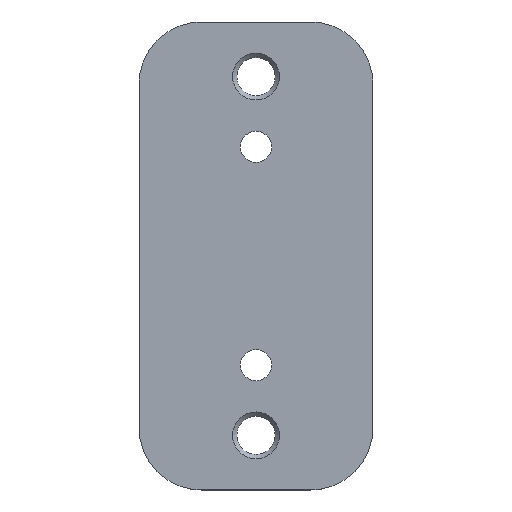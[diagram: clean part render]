
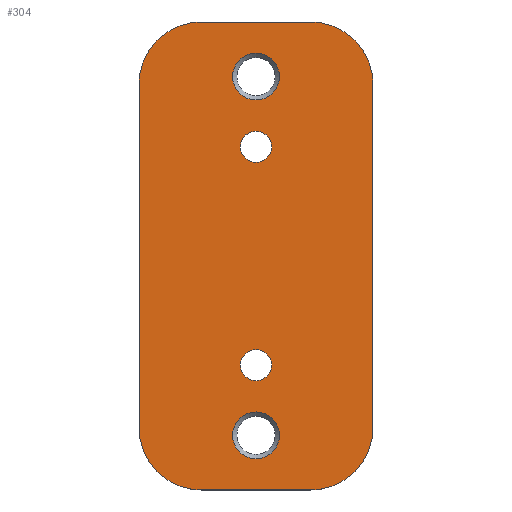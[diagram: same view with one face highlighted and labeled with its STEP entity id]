
A CAD part, top view. The second image highlights one B-rep face of the part: STEP entity #304.
In plain terms, the highlighted planar face has unit normal (0, 0, 1).
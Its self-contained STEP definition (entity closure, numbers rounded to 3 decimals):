
#25=CIRCLE('',#328,8.);
#27=CIRCLE('',#332,8.);
#29=CIRCLE('',#336,8.);
#30=CIRCLE('',#339,2.);
#32=CIRCLE('',#342,2.);
#35=CIRCLE('',#346,8.);
#36=CIRCLE('',#348,3.);
#37=CIRCLE('',#349,3.);
#88=ORIENTED_EDGE('',*,*,#152,.T.);
#89=ORIENTED_EDGE('',*,*,#153,.T.);
#90=ORIENTED_EDGE('',*,*,#148,.F.);
#91=ORIENTED_EDGE('',*,*,#146,.F.);
#92=ORIENTED_EDGE('',*,*,#126,.T.);
#93=ORIENTED_EDGE('',*,*,#130,.T.);
#94=ORIENTED_EDGE('',*,*,#133,.T.);
#95=ORIENTED_EDGE('',*,*,#136,.T.);
#96=ORIENTED_EDGE('',*,*,#139,.T.);
#97=ORIENTED_EDGE('',*,*,#142,.T.);
#98=ORIENTED_EDGE('',*,*,#145,.T.);
#99=ORIENTED_EDGE('',*,*,#151,.T.);
#126=EDGE_CURVE('',#163,#162,#190,.T.);
#130=EDGE_CURVE('',#162,#165,#25,.T.);
#133=EDGE_CURVE('',#165,#167,#195,.T.);
#136=EDGE_CURVE('',#167,#169,#27,.T.);
#139=EDGE_CURVE('',#169,#171,#199,.T.);
#142=EDGE_CURVE('',#171,#173,#29,.T.);
#145=EDGE_CURVE('',#173,#175,#203,.T.);
#146=EDGE_CURVE('',#176,#176,#30,.T.);
#148=EDGE_CURVE('',#178,#178,#32,.T.);
#151=EDGE_CURVE('',#175,#163,#35,.T.);
#152=EDGE_CURVE('',#180,#180,#36,.T.);
#153=EDGE_CURVE('',#181,#181,#37,.T.);
#162=VERTEX_POINT('',#463);
#163=VERTEX_POINT('',#465);
#165=VERTEX_POINT('',#471);
#167=VERTEX_POINT('',#477);
#169=VERTEX_POINT('',#483);
#171=VERTEX_POINT('',#489);
#173=VERTEX_POINT('',#495);
#175=VERTEX_POINT('',#501);
#176=VERTEX_POINT('',#505);
#178=VERTEX_POINT('',#510);
#180=VERTEX_POINT('',#518);
#181=VERTEX_POINT('',#520);
#190=LINE('',#464,#206);
#195=LINE('',#478,#211);
#199=LINE('',#490,#215);
#203=LINE('',#502,#219);
#206=VECTOR('',#369,1000.);
#211=VECTOR('',#382,1000.);
#215=VECTOR('',#394,1000.);
#219=VECTOR('',#406,1000.);
#232=EDGE_LOOP('',(#88));
#233=EDGE_LOOP('',(#89));
#234=EDGE_LOOP('',(#90));
#235=EDGE_LOOP('',(#91));
#236=EDGE_LOOP('',(#92,#93,#94,#95,#96,#97,#98,#99));
#266=FACE_BOUND('',#232,.T.);
#267=FACE_BOUND('',#233,.T.);
#268=FACE_BOUND('',#234,.T.);
#269=FACE_BOUND('',#235,.T.);
#270=FACE_BOUND('',#236,.T.);
#292=PLANE('',#347);
#304=ADVANCED_FACE('',(#266,#267,#268,#269,#270),#292,.T.);
#328=AXIS2_PLACEMENT_3D('',#472,#376,#377);
#332=AXIS2_PLACEMENT_3D('',#484,#388,#389);
#336=AXIS2_PLACEMENT_3D('',#496,#400,#401);
#339=AXIS2_PLACEMENT_3D('',#504,#409,#410);
#342=AXIS2_PLACEMENT_3D('',#509,#415,#416);
#346=AXIS2_PLACEMENT_3D('',#515,#423,#424);
#347=AXIS2_PLACEMENT_3D('',#516,#425,#426);
#348=AXIS2_PLACEMENT_3D('',#517,#427,#428);
#349=AXIS2_PLACEMENT_3D('',#519,#429,#430);
#369=DIRECTION('',(0.,-1.,0.));
#376=DIRECTION('',(0.,0.,1.));
#377=DIRECTION('',(1.,0.,0.));
#382=DIRECTION('',(1.,0.,0.));
#388=DIRECTION('',(0.,0.,1.));
#389=DIRECTION('',(1.,0.,0.));
#394=DIRECTION('',(0.,1.,0.));
#400=DIRECTION('',(0.,0.,1.));
#401=DIRECTION('',(1.,0.,0.));
#406=DIRECTION('',(-1.,0.,0.));
#409=DIRECTION('',(0.,0.,1.));
#410=DIRECTION('',(1.,0.,0.));
#415=DIRECTION('',(0.,0.,1.));
#416=DIRECTION('',(1.,0.,0.));
#423=DIRECTION('',(0.,0.,1.));
#424=DIRECTION('',(1.,0.,0.));
#425=DIRECTION('',(0.,0.,1.));
#426=DIRECTION('',(1.,0.,0.));
#427=DIRECTION('',(0.,0.,-1.));
#428=DIRECTION('',(-1.,0.,0.));
#429=DIRECTION('',(0.,0.,-1.));
#430=DIRECTION('',(-1.,0.,0.));
#463=CARTESIAN_POINT('',(-15.,-22.,4.));
#464=CARTESIAN_POINT('',(-15.,22.,4.));
#465=CARTESIAN_POINT('',(-15.,22.,4.));
#471=CARTESIAN_POINT('',(-7.,-30.,4.));
#472=CARTESIAN_POINT('',(-7.,-22.,4.));
#477=CARTESIAN_POINT('',(7.,-30.,4.));
#478=CARTESIAN_POINT('',(-7.,-30.,4.));
#483=CARTESIAN_POINT('',(15.,-22.,4.));
#484=CARTESIAN_POINT('',(7.,-22.,4.));
#489=CARTESIAN_POINT('',(15.,22.,4.));
#490=CARTESIAN_POINT('',(15.,-22.,4.));
#495=CARTESIAN_POINT('',(7.,30.,4.));
#496=CARTESIAN_POINT('',(7.,22.,4.));
#501=CARTESIAN_POINT('',(-7.,30.,4.));
#502=CARTESIAN_POINT('',(7.,30.,4.));
#504=CARTESIAN_POINT('',(0.,14.,4.));
#505=CARTESIAN_POINT('',(2.,14.,4.));
#509=CARTESIAN_POINT('',(0.,-14.,4.));
#510=CARTESIAN_POINT('',(2.,-14.,4.));
#515=CARTESIAN_POINT('',(-7.,22.,4.));
#516=CARTESIAN_POINT('',(-7.,-22.,4.));
#517=CARTESIAN_POINT('',(0.,-23.,4.));
#518=CARTESIAN_POINT('',(-3.,-23.,4.));
#519=CARTESIAN_POINT('',(0.,23.,4.));
#520=CARTESIAN_POINT('',(-3.,23.,4.));
